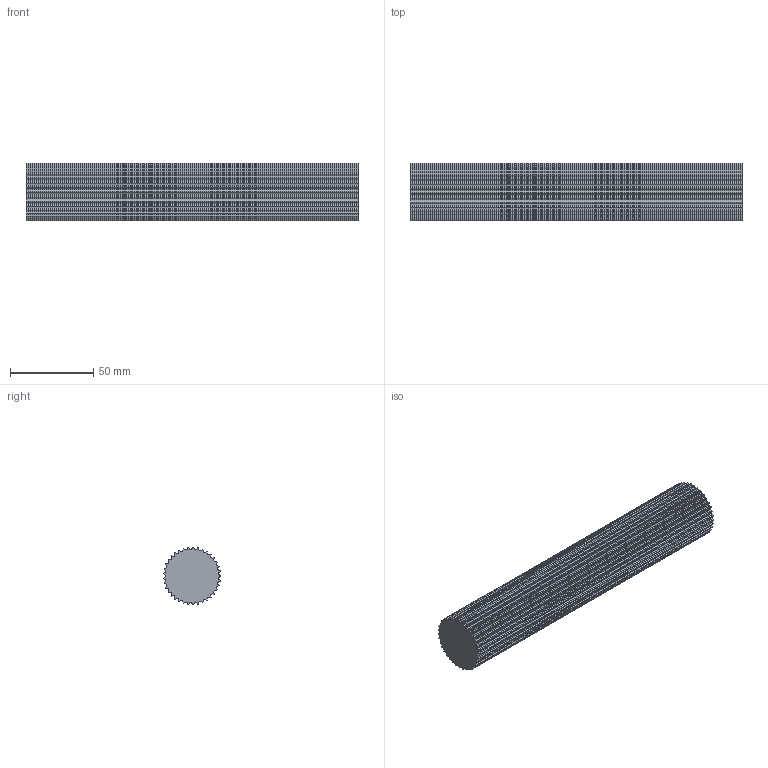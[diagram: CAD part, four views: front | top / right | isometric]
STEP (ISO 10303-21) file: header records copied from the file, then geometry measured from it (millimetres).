
FILE_DESCRIPTION( ( 'STEP AP214' ), '1' );
FILE_NAME( 'C:/Users/StangenbergN/Desktop/Steps Zahnriemenräder/K166_HTD-Zahnwellen/17093700.stp', '2019-06-06T09:35:02', ( '' ), ( '' ), ' ', 'PARTsolutions', ' ' );
FILE_SCHEMA( ( 'AUTOMOTIVE_DESIGN { 1 0 10303 214 1 1 1 1 }' ) );
Length unit declared in the file: millimetre
Products named in the file (1): _17093700
Bounding box: 200 x 34.51 x 34.54 mm (x, y, z)
Volume: 171954.7 mm3; surface area: 31361.8 mm2
Topology: 1 solids, 1 shells, 298 faces, 888 edges, 592 vertices
Faces by surface type: cylinder 185, plane 113
Entity records: 12562 total; most frequent: DIRECTION 1856, CARTESIAN_POINT 1779, ORIENTED_EDGE 1776, EDGE_CURVE 888, AXIS2_PLACEMENT_3D 669, VERTEX_POINT 592, LINE 518, VECTOR 518
